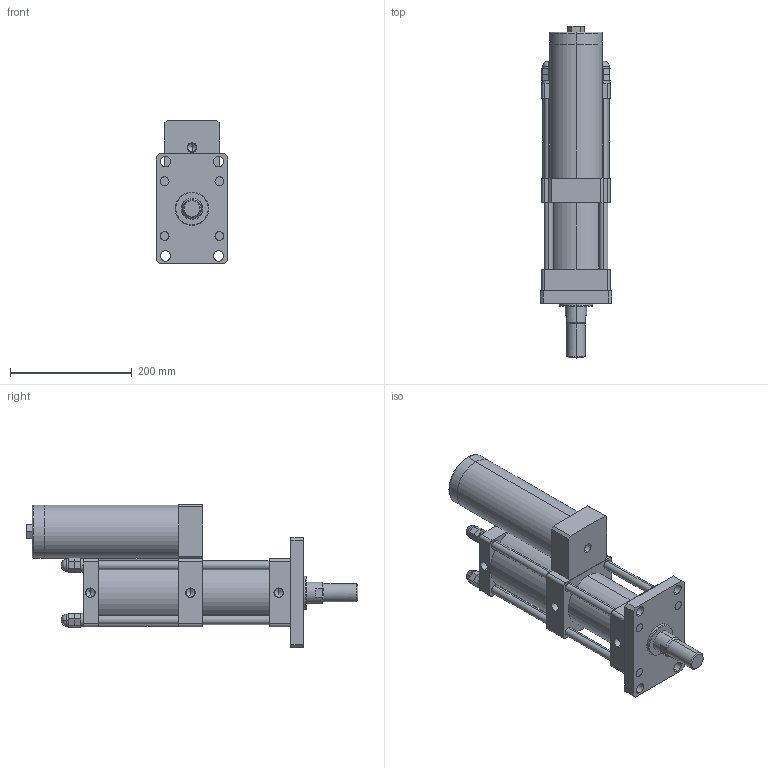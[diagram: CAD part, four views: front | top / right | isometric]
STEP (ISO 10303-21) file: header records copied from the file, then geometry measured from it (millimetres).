
FILE_DESCRIPTION (( 'STEP AP203' ), '1' );
FILE_NAME ('MPT-80-50-5-8T.STEP', '2016-03-11T03:24:37', ( 'WIN' ), ( '' ), 'SwSTEP 2.0', 'SolidWorks 2014', '' );
FILE_SCHEMA (( 'CONFIG_CONTROL_DESIGN' ));
Length unit declared in the file: millimetre
Products named in the file (1): MPT-80-50-5-8T
Bounding box: 118 x 545 x 235 mm (x, y, z)
Volume: 4402836.2 mm3; surface area: 568988 mm2
Topology: 20 solids, 20 shells, 399 faces, 968 edges, 562 vertices
Faces by surface type: plane 186, cylinder 90, torus 48, bspline 48, cone 27
Entity records: 12726 total; most frequent: CARTESIAN_POINT 3706, DIRECTION 1899, ORIENTED_EDGE 1804, EDGE_CURVE 902, AXIS2_PLACEMENT_3D 699, VERTEX_POINT 562, VECTOR 501, LINE 501
